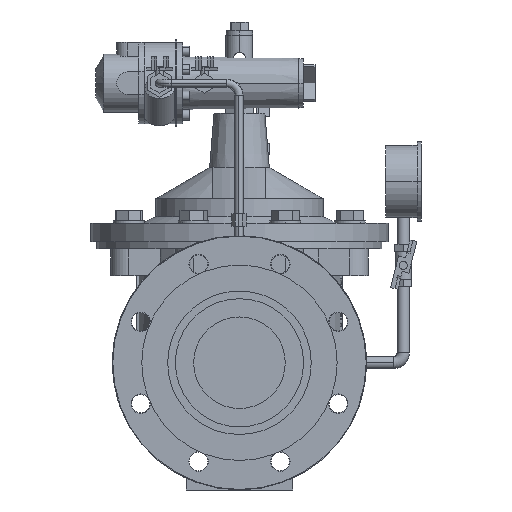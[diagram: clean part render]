
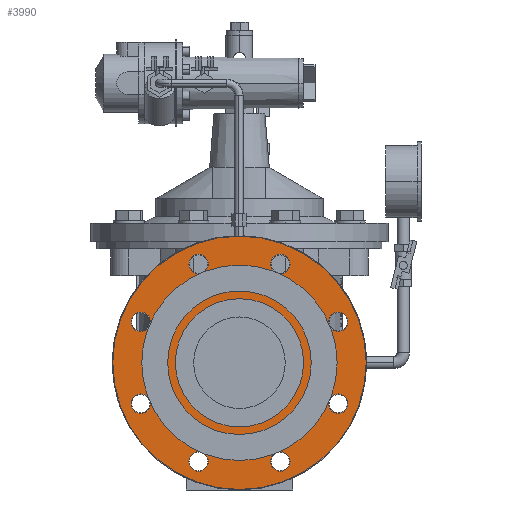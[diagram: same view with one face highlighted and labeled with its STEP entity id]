
A CAD part, left-side view. The second image highlights one B-rep face of the part: STEP entity #3990.
In plain terms, the highlighted planar face has unit normal (-1, 0, 0).
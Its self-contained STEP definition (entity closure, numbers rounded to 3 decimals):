
#3990=ADVANCED_FACE('',(#7009,#7010,#7011,#7012,#7013,#7014,#7015,#7016,#7017,#7018),#7019,.F.);
#7009=FACE_BOUND('',#10145,.T.);
#7010=FACE_OUTER_BOUND('',#10146,.T.);
#7011=FACE_BOUND('',#10147,.T.);
#7012=FACE_BOUND('',#10148,.T.);
#7013=FACE_BOUND('',#10149,.T.);
#7014=FACE_BOUND('',#10150,.T.);
#7015=FACE_BOUND('',#10151,.T.);
#7016=FACE_BOUND('',#10152,.T.);
#7017=FACE_BOUND('',#10153,.T.);
#7018=FACE_BOUND('',#10154,.T.);
#7019=PLANE('',#10155);
#10006=EDGE_CURVE('',#18947,#18951,#18953,.T.);
#10011=EDGE_CURVE('',#18956,#18960,#18962,.T.);
#10016=EDGE_CURVE('',#18965,#18969,#18971,.T.);
#10021=EDGE_CURVE('',#18974,#18978,#18980,.T.);
#10026=EDGE_CURVE('',#18983,#18987,#18989,.T.);
#10031=EDGE_CURVE('',#18992,#18996,#18998,.T.);
#10036=EDGE_CURVE('',#19001,#19005,#19007,.T.);
#10041=EDGE_CURVE('',#19010,#19014,#19016,.T.);
#10059=EDGE_CURVE('',#19044,#19048,#19050,.T.);
#10099=EDGE_CURVE('',#19048,#19044,#19106,.T.);
#10108=EDGE_CURVE('',#19014,#19010,#19115,.T.);
#10111=EDGE_CURVE('',#19005,#19001,#19118,.T.);
#10114=EDGE_CURVE('',#18996,#18992,#19121,.T.);
#10117=EDGE_CURVE('',#18987,#18983,#19124,.T.);
#10120=EDGE_CURVE('',#18978,#18974,#19127,.T.);
#10123=EDGE_CURVE('',#18969,#18965,#19130,.T.);
#10126=EDGE_CURVE('',#18960,#18956,#19133,.T.);
#10129=EDGE_CURVE('',#18951,#18947,#19136,.T.);
#10145=EDGE_LOOP('',(#19181,#19182));
#10146=EDGE_LOOP('',(#19183,#19184));
#10147=EDGE_LOOP('',(#19185,#19186));
#10148=EDGE_LOOP('',(#19187,#19188));
#10149=EDGE_LOOP('',(#19189,#19190));
#10150=EDGE_LOOP('',(#19191,#19192));
#10151=EDGE_LOOP('',(#19193,#19194));
#10152=EDGE_LOOP('',(#19195,#19196));
#10153=EDGE_LOOP('',(#19197,#19198));
#10154=EDGE_LOOP('',(#19199,#19200));
#10155=AXIS2_PLACEMENT_3D('',#19201,#19202,#19203);
#18947=VERTEX_POINT('',#23440);
#18951=VERTEX_POINT('',#23445);
#18953=CIRCLE('',#23448,9.5);
#18956=VERTEX_POINT('',#23451);
#18960=VERTEX_POINT('',#23456);
#18962=CIRCLE('',#23459,9.5);
#18965=VERTEX_POINT('',#23462);
#18969=VERTEX_POINT('',#23467);
#18971=CIRCLE('',#23470,9.5);
#18974=VERTEX_POINT('',#23473);
#18978=VERTEX_POINT('',#23478);
#18980=CIRCLE('',#23481,9.5);
#18983=VERTEX_POINT('',#23484);
#18987=VERTEX_POINT('',#23489);
#18989=CIRCLE('',#23492,9.5);
#18992=VERTEX_POINT('',#23495);
#18996=VERTEX_POINT('',#23500);
#18998=CIRCLE('',#23503,9.5);
#19001=VERTEX_POINT('',#23506);
#19005=VERTEX_POINT('',#23511);
#19007=CIRCLE('',#23514,9.5);
#19010=VERTEX_POINT('',#23517);
#19014=VERTEX_POINT('',#23522);
#19016=CIRCLE('',#23525,9.5);
#19044=VERTEX_POINT('',#23559);
#19048=VERTEX_POINT('',#23564);
#19050=CIRCLE('',#23567,63.0);
#19106=CIRCLE('',#23631,63.0);
#19115=CIRCLE('',#23640,9.5);
#19118=CIRCLE('',#23643,9.5);
#19121=CIRCLE('',#23646,9.5);
#19124=CIRCLE('',#23649,9.5);
#19127=CIRCLE('',#23652,9.5);
#19130=CIRCLE('',#23655,9.5);
#19133=CIRCLE('',#23658,9.5);
#19136=CIRCLE('',#23661,9.5);
#19181=ORIENTED_EDGE('',*,*,#10099,.T.);
#19182=ORIENTED_EDGE('',*,*,#10059,.T.);
#19183=ORIENTED_EDGE('',*,*,#23665,.F.);
#19184=ORIENTED_EDGE('',*,*,#23669,.F.);
#19185=ORIENTED_EDGE('',*,*,#10006,.T.);
#19186=ORIENTED_EDGE('',*,*,#10129,.T.);
#19187=ORIENTED_EDGE('',*,*,#10011,.T.);
#19188=ORIENTED_EDGE('',*,*,#10126,.T.);
#19189=ORIENTED_EDGE('',*,*,#10123,.T.);
#19190=ORIENTED_EDGE('',*,*,#10016,.T.);
#19191=ORIENTED_EDGE('',*,*,#10120,.T.);
#19192=ORIENTED_EDGE('',*,*,#10021,.T.);
#19193=ORIENTED_EDGE('',*,*,#10117,.T.);
#19194=ORIENTED_EDGE('',*,*,#10026,.T.);
#19195=ORIENTED_EDGE('',*,*,#10114,.T.);
#19196=ORIENTED_EDGE('',*,*,#10031,.T.);
#19197=ORIENTED_EDGE('',*,*,#10036,.T.);
#19198=ORIENTED_EDGE('',*,*,#10111,.T.);
#19199=ORIENTED_EDGE('',*,*,#10041,.T.);
#19200=ORIENTED_EDGE('',*,*,#10108,.T.);
#19201=CARTESIAN_POINT('',(-827.086,-0.01,0.));
#19202=DIRECTION('',(1.0,0.0,-0.0));
#19203=DIRECTION('',(0.0,0.0,1.0));
#23440=CARTESIAN_POINT('',(-827.086,40.172,106.507));
#23445=CARTESIAN_POINT('',(-827.086,40.172,87.507));
#23448=AXIS2_PLACEMENT_3D('',#28337,#28338,#28339);
#23451=CARTESIAN_POINT('',(-827.086,96.998,-30.682));
#23456=CARTESIAN_POINT('',(-827.086,96.998,-49.682));
#23459=AXIS2_PLACEMENT_3D('',#28345,#28346,#28347);
#23462=CARTESIAN_POINT('',(-827.086,-40.192,-87.507));
#23467=CARTESIAN_POINT('',(-827.086,-40.192,-106.507));
#23470=AXIS2_PLACEMENT_3D('',#28353,#28354,#28355);
#23473=CARTESIAN_POINT('',(-827.086,-97.017,49.682));
#23478=CARTESIAN_POINT('',(-827.086,-97.017,30.682));
#23481=AXIS2_PLACEMENT_3D('',#28361,#28362,#28363);
#23484=CARTESIAN_POINT('',(-827.086,-40.192,106.507));
#23489=CARTESIAN_POINT('',(-827.086,-40.192,87.507));
#23492=AXIS2_PLACEMENT_3D('',#28369,#28370,#28371);
#23495=CARTESIAN_POINT('',(-827.086,-97.017,-30.682));
#23500=CARTESIAN_POINT('',(-827.086,-97.017,-49.682));
#23503=AXIS2_PLACEMENT_3D('',#28377,#28378,#28379);
#23506=CARTESIAN_POINT('',(-827.086,40.172,-87.507));
#23511=CARTESIAN_POINT('',(-827.086,40.172,-106.507));
#23514=AXIS2_PLACEMENT_3D('',#28385,#28386,#28387);
#23517=CARTESIAN_POINT('',(-827.086,96.998,49.682));
#23522=CARTESIAN_POINT('',(-827.086,96.998,30.682));
#23525=AXIS2_PLACEMENT_3D('',#28393,#28394,#28395);
#23559=CARTESIAN_POINT('',(-827.086,-0.01,63.0));
#23564=CARTESIAN_POINT('',(-827.086,-0.01,-63.0));
#23567=AXIS2_PLACEMENT_3D('',#28425,#28426,#28427);
#23631=AXIS2_PLACEMENT_3D('',#28490,#28491,#28492);
#23640=AXIS2_PLACEMENT_3D('',#28508,#28509,#28510);
#23643=AXIS2_PLACEMENT_3D('',#28514,#28515,#28516);
#23646=AXIS2_PLACEMENT_3D('',#28520,#28521,#28522);
#23649=AXIS2_PLACEMENT_3D('',#28526,#28527,#28528);
#23652=AXIS2_PLACEMENT_3D('',#28532,#28533,#28534);
#23655=AXIS2_PLACEMENT_3D('',#28538,#28539,#28540);
#23658=AXIS2_PLACEMENT_3D('',#28544,#28545,#28546);
#23661=AXIS2_PLACEMENT_3D('',#28550,#28551,#28552);
#23665=EDGE_CURVE('',#28556,#28559,#28560,.T.);
#23669=EDGE_CURVE('',#28559,#28556,#28565,.T.);
#28337=CARTESIAN_POINT('',(-827.086,40.172,97.007));
#28338=DIRECTION('',(1.0,0.0,-0.0));
#28339=DIRECTION('',(0.0,0.0,1.0));
#28345=CARTESIAN_POINT('',(-827.086,96.998,-40.182));
#28346=DIRECTION('',(1.0,0.0,-0.0));
#28347=DIRECTION('',(0.0,0.0,1.0));
#28353=CARTESIAN_POINT('',(-827.086,-40.192,-97.007));
#28354=DIRECTION('',(1.0,0.0,-0.0));
#28355=DIRECTION('',(0.0,0.0,1.0));
#28361=CARTESIAN_POINT('',(-827.086,-97.017,40.182));
#28362=DIRECTION('',(1.0,0.0,-0.0));
#28363=DIRECTION('',(0.0,0.0,1.0));
#28369=CARTESIAN_POINT('',(-827.086,-40.192,97.007));
#28370=DIRECTION('',(1.0,0.0,-0.0));
#28371=DIRECTION('',(0.0,0.0,1.0));
#28377=CARTESIAN_POINT('',(-827.086,-97.017,-40.182));
#28378=DIRECTION('',(1.0,0.0,-0.0));
#28379=DIRECTION('',(0.0,0.0,1.0));
#28385=CARTESIAN_POINT('',(-827.086,40.172,-97.007));
#28386=DIRECTION('',(1.0,0.0,-0.0));
#28387=DIRECTION('',(0.0,0.0,1.0));
#28393=CARTESIAN_POINT('',(-827.086,96.998,40.182));
#28394=DIRECTION('',(1.0,0.0,-0.0));
#28395=DIRECTION('',(0.0,0.0,1.0));
#28425=CARTESIAN_POINT('',(-827.086,-0.01,0.));
#28426=DIRECTION('',(1.0,0.0,-0.0));
#28427=DIRECTION('',(0.0,0.0,1.0));
#28490=CARTESIAN_POINT('',(-827.086,-0.01,0.));
#28491=DIRECTION('',(1.0,0.0,-0.0));
#28492=DIRECTION('',(0.0,0.0,1.0));
#28508=CARTESIAN_POINT('',(-827.086,96.998,40.182));
#28509=DIRECTION('',(1.0,0.0,-0.0));
#28510=DIRECTION('',(0.0,0.0,1.0));
#28514=CARTESIAN_POINT('',(-827.086,40.172,-97.007));
#28515=DIRECTION('',(1.0,0.0,-0.0));
#28516=DIRECTION('',(0.0,0.0,1.0));
#28520=CARTESIAN_POINT('',(-827.086,-97.017,-40.182));
#28521=DIRECTION('',(1.0,0.0,-0.0));
#28522=DIRECTION('',(0.0,0.0,1.0));
#28526=CARTESIAN_POINT('',(-827.086,-40.192,97.007));
#28527=DIRECTION('',(1.0,0.0,-0.0));
#28528=DIRECTION('',(0.0,0.0,1.0));
#28532=CARTESIAN_POINT('',(-827.086,-97.017,40.182));
#28533=DIRECTION('',(1.0,0.0,-0.0));
#28534=DIRECTION('',(0.0,0.0,1.0));
#28538=CARTESIAN_POINT('',(-827.086,-40.192,-97.007));
#28539=DIRECTION('',(1.0,0.0,-0.0));
#28540=DIRECTION('',(0.0,0.0,1.0));
#28544=CARTESIAN_POINT('',(-827.086,96.998,-40.182));
#28545=DIRECTION('',(1.0,0.0,-0.0));
#28546=DIRECTION('',(0.0,0.0,1.0));
#28550=CARTESIAN_POINT('',(-827.086,40.172,97.007));
#28551=DIRECTION('',(1.0,0.0,-0.0));
#28552=DIRECTION('',(0.0,0.0,1.0));
#28556=VERTEX_POINT('',#36215);
#28559=VERTEX_POINT('',#36219);
#28560=CIRCLE('',#36220,124.5);
#28565=CIRCLE('',#36226,124.5);
#36215=CARTESIAN_POINT('',(-827.086,-0.01,124.5));
#36219=CARTESIAN_POINT('',(-827.086,-0.01,-124.5));
#36220=AXIS2_PLACEMENT_3D('',#41582,#41583,#41584);
#36226=AXIS2_PLACEMENT_3D('',#41592,#41593,#41594);
#41582=CARTESIAN_POINT('',(-827.086,-0.01,0.));
#41583=DIRECTION('',(1.0,0.0,-0.0));
#41584=DIRECTION('',(0.0,0.0,1.0));
#41592=CARTESIAN_POINT('',(-827.086,-0.01,0.));
#41593=DIRECTION('',(1.0,0.0,-0.0));
#41594=DIRECTION('',(0.0,0.0,1.0));
